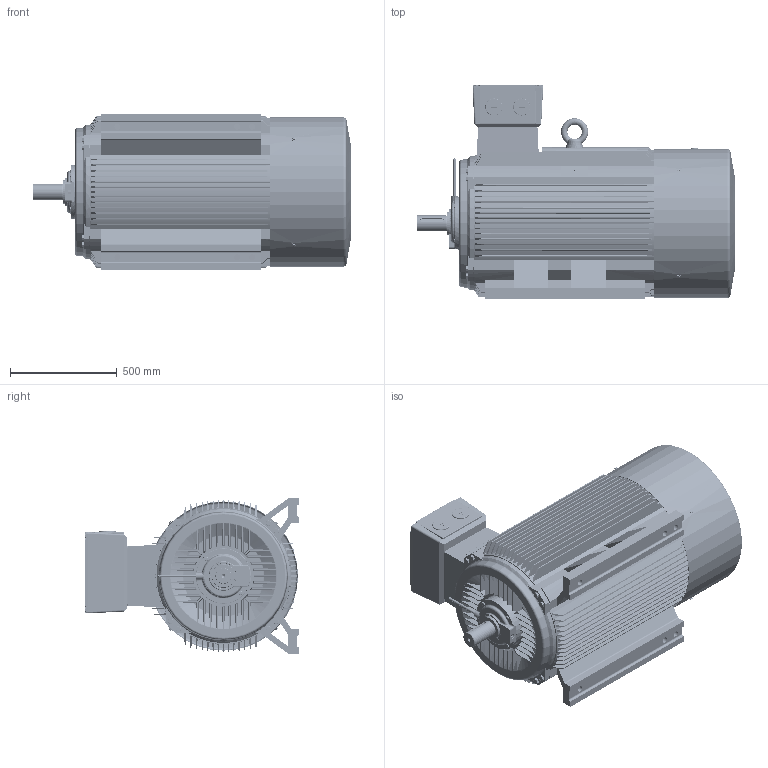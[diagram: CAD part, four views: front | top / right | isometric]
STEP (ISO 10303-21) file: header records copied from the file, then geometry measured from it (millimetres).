
FILE_DESCRIPTION (( 'STEP AP203' ), '1' );
FILE_NAME ('Y2-355L-2 B3蚾饜极.STEP', '2013-11-05T07:11:18', ( '123' ), ( 'top' ), 'SwSTEP 2.0', 'SolidWorks 2008', '' );
FILE_SCHEMA (( 'CONFIG_CONTROL_DESIGN' ));
Products named in the file (24): 355接线盒座_默认; 355接线盒盖_默认; 扣塞_默认; M10-90_默认; 355-2后轴承外盖_默认; 355-2后端盖_默认; 355-2前轴承外盖_默认; 355接线盒座垫_默认; Y2-355L-2 B3蚾饜极; 355机壳_默认; 355L-2 转轴_默认; 355-4风叶_默认; M63螺塞_默认; 355铭牌_默认; 铜油嘴_默认; M12_默认; ｷ釁ﾖﾂﾝｶ､ｼﾓｵ貳ｬ_ﾄｬﾈﾏ; M36吊环_默认; 355-4油管_默认; M16_默认; 355-2油封_默认; 355-2风罩_默认; 355-2前端盖_默认; 355接线盒座垫、盖垫_默认
Assembly tree (43 placements, depth 2):
  Y2-355L-2 B3蚾饜极
    M12_默认  x4
    M10-90_默认  x4
    355机壳_默认
    355L-2 转轴_默认
    M16_默认  x8
    355-2后端盖_默认
    355-2前端盖_默认
    M36吊环_默认
    扣塞_默认
    355-2风罩_默认
    355接线盒座垫_默认
    355接线盒盖_默认
    M63螺塞_默认  x2
    355-2后轴承外盖_默认
    355-2前轴承外盖_默认
    355-4风叶_默认
    355铭牌_默认
    ｷ釁ﾖﾂﾝｶ､ｼﾓｵ貳ｬ_ﾄｬﾈﾏ  x4
    355接线盒座垫、盖垫_默认
    355-2油封_默认  x2
    铜油嘴_默认  x2
    355-4油管_默认  x2
    355接线盒座_默认
Bounding box: 1486.5 x 1004 x 726 mm (x, y, z)
Volume: 122359513.5 mm3; surface area: 16136767.2 mm2
Topology: 47 solids, 47 shells, 8837 faces, 25142 edges, 16507 vertices
Faces by surface type: plane 4167, cylinder 3349, bspline 483, torus 448, cone 376, sphere 14
Entity records: 301739 total; most frequent: CARTESIAN_POINT 80674, ORIENTED_EDGE 47018, DIRECTION 44311, EDGE_CURVE 23509, AXIS2_PLACEMENT_3D 15561, VERTEX_POINT 15449, VECTOR 13189, LINE 13189
